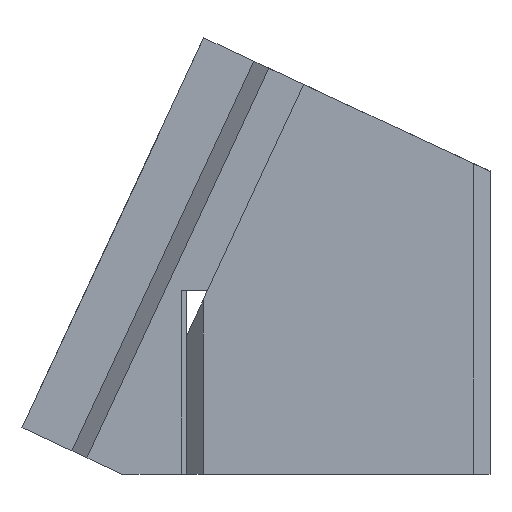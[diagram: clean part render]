
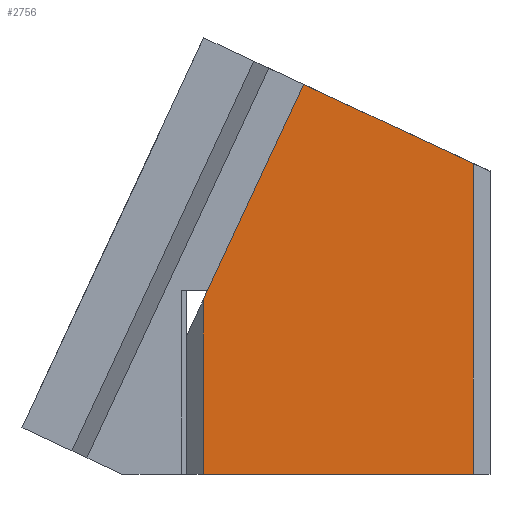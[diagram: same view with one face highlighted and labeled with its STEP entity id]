
A CAD part, front view. The second image highlights one B-rep face of the part: STEP entity #2756.
In plain terms, the highlighted planar face has unit normal (0, -1, 0).
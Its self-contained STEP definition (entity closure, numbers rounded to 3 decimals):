
#2336=CARTESIAN_POINT('Vertex',(23.178,-84.,-44.5)) ;
#2349=CARTESIAN_POINT('Vertex',(23.178,-84.,11.835)) ;
#2352=CARTESIAN_POINT('Line Origine',(23.178,-84.,-9.154)) ;
#2710=CARTESIAN_POINT('Axis2P3D Location',(0.,-84.,0.)) ;
#2715=CARTESIAN_POINT('Line Origine',(-25.84,-84.,-28.7)) ;
#2719=CARTESIAN_POINT('Vertex',(-25.84,-84.,-12.9)) ;
#2721=CARTESIAN_POINT('Vertex',(-25.84,-84.,-44.5)) ;
#2724=CARTESIAN_POINT('Line Origine',(-1.331,-84.,-44.5)) ;
#2729=CARTESIAN_POINT('Line Origine',(7.783,-84.,19.013)) ;
#2733=CARTESIAN_POINT('Vertex',(-7.611,-84.,26.192)) ;
#2736=CARTESIAN_POINT('Line Origine',(-11.27,-84.,18.346)) ;
#2740=CARTESIAN_POINT('Vertex',(-14.929,-84.,10.5)) ;
#2743=CARTESIAN_POINT('Line Origine',(-20.384,-84.,-1.2)) ;
#2353=DIRECTION('Vector Direction',(0.,0.,-1.)) ;
#2711=DIRECTION('Axis2P3D Direction',(0.,1.,0.)) ;
#2712=DIRECTION('Axis2P3D XDirection',(-1.,0.,0.)) ;
#2716=DIRECTION('Vector Direction',(0.,0.,1.)) ;
#2725=DIRECTION('Vector Direction',(-1.,0.,0.)) ;
#2730=DIRECTION('Vector Direction',(-0.906,0.,0.423)) ;
#2737=DIRECTION('Vector Direction',(-0.423,0.,-0.906)) ;
#2744=DIRECTION('Vector Direction',(-0.423,0.,-0.906)) ;
#2713=AXIS2_PLACEMENT_3D('Plane Axis2P3D',#2710,#2711,#2712) ;
#2749=ORIENTED_EDGE('',*,*,#2723,.T.) ;
#2750=ORIENTED_EDGE('',*,*,#2728,.F.) ;
#2751=ORIENTED_EDGE('',*,*,#2356,.F.) ;
#2752=ORIENTED_EDGE('',*,*,#2735,.T.) ;
#2753=ORIENTED_EDGE('',*,*,#2742,.T.) ;
#2754=ORIENTED_EDGE('',*,*,#2747,.F.) ;
#2354=VECTOR('Line Direction',#2353,1.) ;
#2717=VECTOR('Line Direction',#2716,1.) ;
#2726=VECTOR('Line Direction',#2725,1.) ;
#2731=VECTOR('Line Direction',#2730,1.) ;
#2738=VECTOR('Line Direction',#2737,1.) ;
#2745=VECTOR('Line Direction',#2744,1.) ;
#2756=ADVANCED_FACE('\X2\51E04F554F53\X0\.2',(#2755),#2714,.F.) ;
#2356=EDGE_CURVE('',#2350,#2337,#2355,.T.) ;
#2723=EDGE_CURVE('',#2720,#2722,#2718,.F.) ;
#2728=EDGE_CURVE('',#2337,#2722,#2727,.T.) ;
#2735=EDGE_CURVE('',#2350,#2734,#2732,.T.) ;
#2742=EDGE_CURVE('',#2734,#2741,#2739,.T.) ;
#2747=EDGE_CURVE('',#2720,#2741,#2746,.F.) ;
#2748=EDGE_LOOP('',(#2749,#2750,#2751,#2752,#2753,#2754)) ;
#2755=FACE_OUTER_BOUND('',#2748,.T.) ;
#2355=LINE('Line',#2352,#2354) ;
#2718=LINE('Line',#2715,#2717) ;
#2727=LINE('Line',#2724,#2726) ;
#2732=LINE('Line',#2729,#2731) ;
#2739=LINE('Line',#2736,#2738) ;
#2746=LINE('Line',#2743,#2745) ;
#2714=PLANE('Plane',#2713) ;
#2337=VERTEX_POINT('',#2336) ;
#2350=VERTEX_POINT('',#2349) ;
#2720=VERTEX_POINT('',#2719) ;
#2722=VERTEX_POINT('',#2721) ;
#2734=VERTEX_POINT('',#2733) ;
#2741=VERTEX_POINT('',#2740) ;
